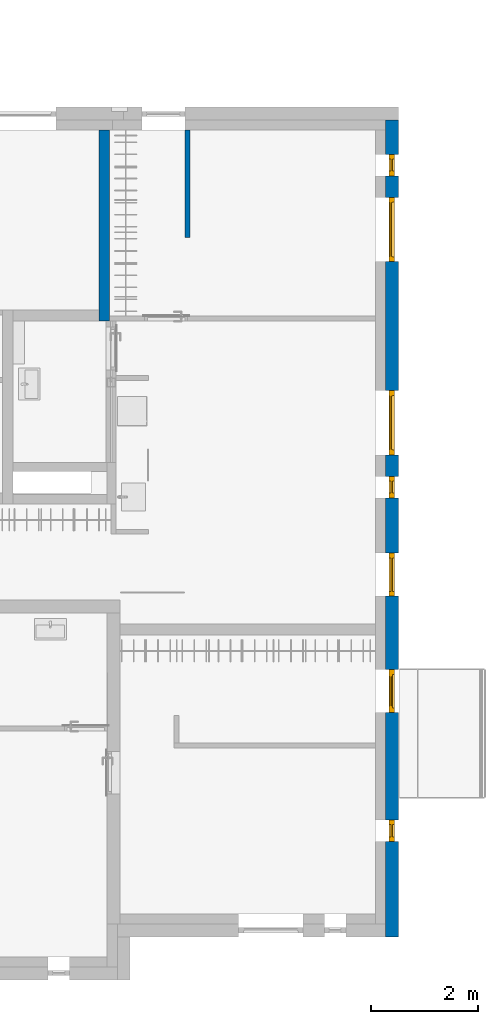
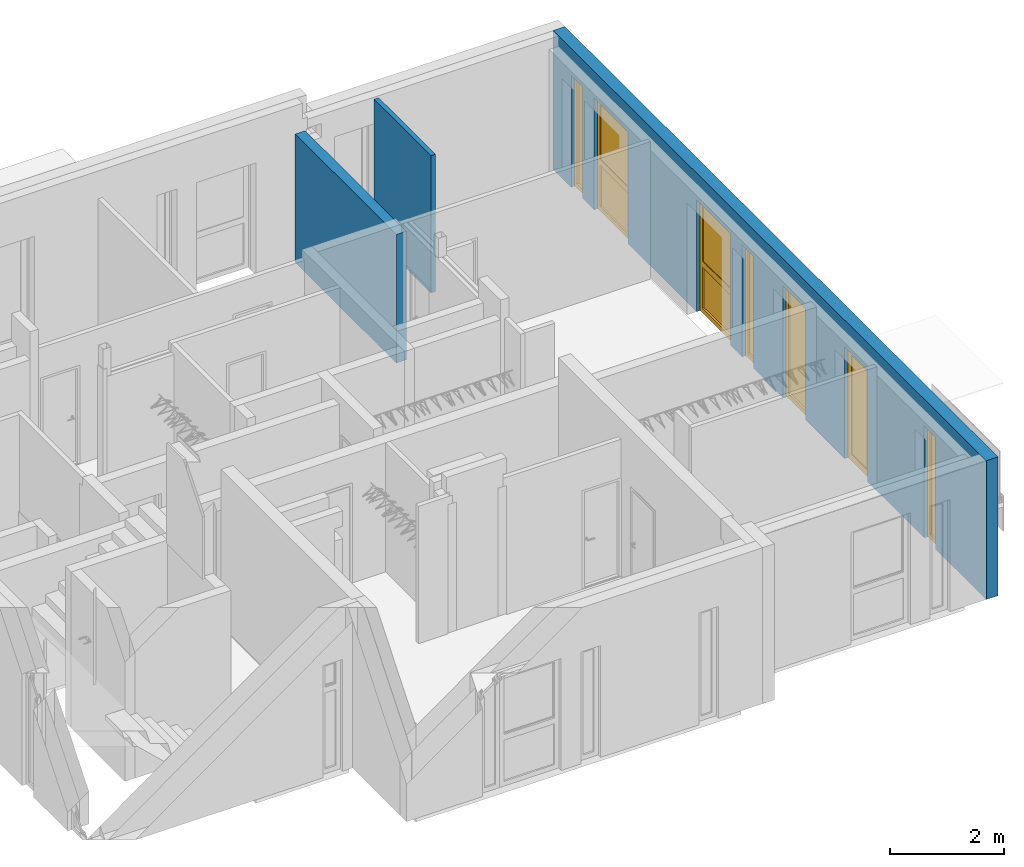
# One storey, part 6 of 42: 7 windows, 3 walls, 7 openings.
"""IFC2X3 building model written with IfcOpenShell, lengths in millimetres."""

from ifc_helpers import new_model, entity, si_unit, converted_unit, direction, frame, frame_2d, origin, place, context, subcontext, project, spatial, polyline, rectangle, extrude, clip, bounded_halfspace, faceted_brep, source, transform, mapped, material, material_list, layer, layer_set, layer_usage, type_object, type_shapes, element, fill, save


model = new_model("IFC2X3")

# Units and contexts
model_context = context("Model", 3, precision=0.01, world=origin(), true_north=direction((6.123233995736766e-17, 1.0)))
plan_context = context("Plan", 3, precision=0.01, world=origin(), true_north=direction((6.123233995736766e-17, 1.0)))
body_context = subcontext(model_context, "Body", "Model", "MODEL_VIEW")
ifc_project = project(units=[si_unit("LENGTHUNIT", "METRE", prefix="MILLI"), converted_unit("PLANEANGLEUNIT", "DEGREE", entity("IfcPlaneAngleMeasure", 0.017453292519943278), si_unit("PLANEANGLEUNIT", "RADIAN"), dimensions=[0, 0, 0, 0, 0, 0, 0]), si_unit("AREAUNIT", "SQUARE_METRE")], contexts=[model_context, plan_context])

# Site, building, storey
site_placement = place(None, origin())
site = spatial("IfcSite", under=ifc_project, at=site_placement, Name="Default", CompositionType="ELEMENT")
building_placement = place(site_placement, origin())
building = spatial("IfcBuilding", under=site, at=building_placement, CompositionType="ELEMENT")
storey_placement = place(building_placement, frame((0.0, 0.0, 9465.000076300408)))
storey = spatial("IfcBuildingStorey", under=building, at=storey_placement, Name="4K", CompositionType="ELEMENT", Elevation=9465.000076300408)

# Wall
ifc_material_1 = material(Name="_K. Väisviimistlus. Krohv. Valge")
ifc_layer_1 = layer(ifc_material_1, 5.0)
ifc_material_2 = material(Name="_K. Müüritis. Väikeplokk. Betoon-õõnesplokk")
ifc_layer_2 = layer(ifc_material_2, 190.00000000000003)
ifc_layer_3 = layer(ifc_material_1, 5.0)
ifc_layer_set_1 = layer_set([ifc_layer_1, ifc_layer_2, ifc_layer_3], Name="Basic Wall:SS-01. 190")
ifc_layer_usage_1 = layer_usage(ifc_layer_set_1, "AXIS2", "NEGATIVE", 100.00000000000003)
wall_type_1 = type_object("IfcWallType", Name="Basic Wall:SS-01. 190", PredefinedType="STANDARD", material=ifc_layer_set_1)
wall_1_placement = place(storey_placement, frame((11850.0, 11846.0, -20.0), z_axis=(0.0, 0.0, 1.0), x_axis=(0.0, 1.0, 0.0)))
element("IfcWallStandardCase", 1, at=wall_1_placement, inside=storey, type_object=wall_type_1, material=ifc_layer_usage_1, Name="Basic Wall:SS-01. 190", ObjectType="Basic Wall:SS-01. 190", context=body_context, shape_type="Clipping", body=[
    clip(extrude(rectangle(XDim=3554.000000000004, YDim=200.00000000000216, at=frame_2d((1777.000000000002, -3.836930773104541e-13), x_axis=(-1.0, 0.0))), origin(), (0.0, 0.0, 1.0), 2759.999877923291), bounded_halfspace(frame((3554.0, -100.0, 0.0)), True, frame((3554.0, -100.0, 0.0)), polyline([(0.0, 0.0), (0.0, 200.0), (-3554.0, 200.0), (-3554.0, 68.0), (-3554.0, 0.0), (-3462.0, 0.0), (0.0, 0.0)]))),
])

# Wall, openings, windows
ifc_layer_4 = layer(ifc_material_1, 10.0)
ifc_material_3 = material(Name="_K. Soojustus. EPS Silver")
ifc_layer_5 = layer(ifc_material_3, 230.0)
ifc_layer_set_2 = layer_set([ifc_layer_4, ifc_layer_5], Name="Basic Wall:VS-01")
ifc_layer_usage_2 = layer_usage(ifc_layer_set_2, "AXIS2", "NEGATIVE", 120.0)
wall_type_2 = type_object("IfcWallType", Name="Basic Wall:VS-01", PredefinedType="STANDARD", material=ifc_layer_set_2)
wall_2_placement = place(storey_placement, frame((17210.0, 15590.0, 0.0), z_axis=(0.0, 0.0, 1.0), x_axis=(0.0, -1.0, 0.0)))
wall_2 = element("IfcWallStandardCase", 2, at=wall_2_placement, inside=storey, type_object=wall_type_2, material=ifc_layer_usage_2, Name="Basic Wall:VS-01", ObjectType="Basic Wall:VS-01", context=body_context, shape_type="SweptSolid", body=[
    extrude(rectangle(XDim=15219.99999999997, YDim=240.00000000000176, at=frame_2d((7609.999999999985, 3.410605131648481e-13), x_axis=(-1.0, 0.0))), origin(), (0.0, 0.0, 1.0), 2975.0000686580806),
])
opening_1_placement = place(wall_2_placement, frame((15590.0, -17210.0, 0.0), z_axis=(0.0, 0.0, 1.0), x_axis=(0.0, 1.0, 0.0)))
opening_1 = element("IfcOpeningElement", 3, at=opening_1_placement, cuts=wall_2, Name="Basic Wall:VS-01", ObjectType="Opening", context=body_context, shape_type="Brep", body=[
    faceted_brep([(17350.0, 14550.0, 2400.0), (16656.0, 14550.0, 2400.0), (16656.0, 14550.0, 0.0), (17240.0, 14550.0, 0.0), (17250.0, 14550.0, 0.0), (17350.0, 14550.0, 0.0), (17350.0, 14950.0, 2400.0), (16656.0, 14950.0, 2400.0), (17350.0, 14950.0, 0.0), (17250.0, 14950.0, 0.0), (17240.0, 14950.0, 0.0), (16656.0, 14950.0, 0.0)], [[[0, 1, 2, 3, 4, 5]], [[6, 7, 1, 0]], [[8, 9, 10, 11, 7, 6]], [[5, 4, 3, 2, 11, 10, 9, 8]], [[6, 0, 5, 8]], [[7, 11, 2, 1]]]),
])
opening_2_placement = place(wall_2_placement, frame((15590.0, -17210.0, 0.0), z_axis=(0.0, 0.0, 1.0), x_axis=(0.0, 1.0, 0.0)))
opening_2 = element("IfcOpeningElement", 4, at=opening_2_placement, cuts=wall_2, Name="Basic Wall:VS-01", ObjectType="Opening", context=body_context, shape_type="Brep", body=[
    faceted_brep([(17350.0, 12950.0, 2400.0), (16656.0, 12950.0, 2400.0), (16656.0, 12950.0, 0.0), (17240.0, 12950.0, 0.0), (17250.0, 12950.0, 0.0), (17350.0, 12950.0, 0.0), (17350.0, 14150.0, 2400.0), (16656.0, 14150.0, 2400.0), (17350.0, 14150.0, 0.0), (17250.0, 14150.0, 0.0), (17240.0, 14150.0, 0.0), (16656.0, 14150.0, 0.0)], [[[0, 1, 2, 3, 4, 5]], [[6, 7, 1, 0]], [[8, 9, 10, 11, 7, 6]], [[5, 4, 3, 2, 11, 10, 9, 8]], [[6, 0, 5, 8]], [[7, 11, 2, 1]]]),
])
opening_3_placement = place(wall_2_placement, frame((15590.0, -17210.0, 0.0), z_axis=(0.0, 0.0, 1.0), x_axis=(0.0, 1.0, 0.0)))
opening_3 = element("IfcOpeningElement", 5, at=opening_3_placement, cuts=wall_2, Name="Basic Wall:VS-01", ObjectType="Opening", context=body_context, shape_type="Brep", body=[
    faceted_brep([(17350.0, 9350.0, 2400.0), (16656.0, 9350.0, 2400.0), (16656.0, 9350.0, 0.0), (17240.0, 9350.0, 0.0), (17250.0, 9350.0, 0.0), (17350.0, 9350.0, 0.0), (17350.0, 10550.0, 2400.0), (16656.0, 10550.0, 2400.0), (17350.0, 10550.0, 0.0), (17250.0, 10550.0, 0.0), (17240.0, 10550.0, 0.0), (16656.0, 10550.0, 0.0)], [[[0, 1, 2, 3, 4, 5]], [[6, 7, 1, 0]], [[8, 9, 10, 11, 7, 6]], [[5, 4, 3, 2, 11, 10, 9, 8]], [[6, 0, 5, 8]], [[7, 11, 2, 1]]]),
])
opening_4_placement = place(wall_2_placement, frame((15590.0, -17210.0, 0.0), z_axis=(0.0, 0.0, 1.0), x_axis=(0.0, 1.0, 0.0)))
opening_4 = element("IfcOpeningElement", 6, at=opening_4_placement, cuts=wall_2, Name="Basic Wall:VS-01", ObjectType="Opening", context=body_context, shape_type="Brep", body=[
    faceted_brep([(17350.0, 8550.0, 2400.0), (16656.0, 8550.0, 2400.0), (16656.0, 8550.0, 0.0), (17240.0, 8550.0, 0.0), (17250.0, 8550.0, 0.0), (17350.0, 8550.0, 0.0), (17350.0, 8950.0, 2400.0), (16656.0, 8950.0, 2400.0), (17350.0, 8950.0, 0.0), (17250.0, 8950.0, 0.0), (17240.0, 8950.0, 0.0), (16656.0, 8950.0, 0.0)], [[[0, 1, 2, 3, 4, 5]], [[6, 7, 1, 0]], [[8, 9, 10, 11, 7, 6]], [[5, 4, 3, 2, 11, 10, 9, 8]], [[6, 0, 5, 8]], [[7, 11, 2, 1]]]),
])
opening_5_placement = place(wall_2_placement, frame((15590.0, -17210.0, 0.0), z_axis=(0.0, 0.0, 1.0), x_axis=(0.0, 1.0, 0.0)))
opening_5 = element("IfcOpeningElement", 7, at=opening_5_placement, cuts=wall_2, Name="Basic Wall:VS-01", ObjectType="Opening", context=body_context, shape_type="Brep", body=[
    faceted_brep([(17350.0, 6720.0, 2400.0), (16656.0, 6720.0, 2400.0), (16656.0, 6720.0, 0.0), (17240.0, 6720.0, 0.0), (17250.0, 6720.0, 0.0), (17350.0, 6720.0, 0.0), (17350.0, 7520.0, 2400.0), (16656.0, 7520.0, 2400.0), (17350.0, 7520.0, 0.0), (17250.0, 7520.0, 0.0), (17240.0, 7520.0, 0.0), (16656.0, 7520.0, 0.0)], [[[0, 1, 2, 3, 4, 5]], [[6, 7, 1, 0]], [[8, 9, 10, 11, 7, 6]], [[5, 4, 3, 2, 11, 10, 9, 8]], [[6, 0, 5, 8]], [[7, 11, 2, 1]]]),
])
opening_6_placement = place(wall_2_placement, frame((15590.0, -17210.0, 0.0), z_axis=(0.0, 0.0, 1.0), x_axis=(0.0, 1.0, 0.0)))
opening_6 = element("IfcOpeningElement", 8, at=opening_6_placement, cuts=wall_2, Name="Basic Wall:VS-01", ObjectType="Opening", context=body_context, shape_type="Brep", body=[
    faceted_brep([(17350.0, 4550.0, 2400.0), (16656.0, 4550.0, 2400.0), (16656.0, 4550.0, 0.0), (17240.0, 4550.0, 0.0), (17250.0, 4550.0, 0.0), (17350.0, 4550.0, 0.0), (17350.0, 5350.0, 2400.0), (16656.0, 5350.0, 2400.0), (17350.0, 5350.0, 0.0), (17250.0, 5350.0, 0.0), (17240.0, 5350.0, 0.0), (16656.0, 5350.0, 0.0)], [[[0, 1, 2, 3, 4, 5]], [[6, 7, 1, 0]], [[8, 9, 10, 11, 7, 6]], [[5, 4, 3, 2, 11, 10, 9, 8]], [[6, 0, 5, 8]], [[7, 11, 2, 1]]]),
])
opening_7_placement = place(wall_2_placement, frame((15590.0, -17210.0, 0.0), z_axis=(0.0, 0.0, 1.0), x_axis=(0.0, 1.0, 0.0)))
opening_7 = element("IfcOpeningElement", 9, at=opening_7_placement, cuts=wall_2, Name="Basic Wall:VS-01", ObjectType="Opening", context=body_context, shape_type="Brep", body=[
    faceted_brep([(17350.0, 2150.0, 2400.0), (16656.0, 2150.0, 2400.0), (16656.0, 2150.0, 0.0), (17240.0, 2150.0, 0.0), (17250.0, 2150.0, 0.0), (17350.0, 2150.0, 0.0), (17350.0, 2550.0, 2400.0), (16656.0, 2550.0, 2400.0), (17350.0, 2550.0, 0.0), (17250.0, 2550.0, 0.0), (17240.0, 2550.0, 0.0), (16656.0, 2550.0, 0.0)], [[[0, 1, 2, 3, 4, 5]], [[6, 7, 1, 0]], [[8, 9, 10, 11, 7, 6]], [[5, 4, 3, 2, 11, 10, 9, 8]], [[6, 0, 5, 8]], [[7, 11, 2, 1]]]),
])
ifc_material_4 = material(Name="_K. Klaas. Pakett")
ifc_material_5 = material(Name="_K. Avatäited. Raam. PVC. RAL9005")
ifc_material_6 = material(Name="_K. Avatäited. Raam. PVC. Valge")
ifc_material_list_1 = material_list([ifc_material_4, ifc_material_5, ifc_material_6])
window_style_1 = type_object("IfcWindowStyle", Name="HR_Window_Generic_Rectangle_1x2:A-13.1200x2400.P", ConstructionType="NOTDEFINED", OperationType="NOTDEFINED", ParameterTakesPrecedence=False, Sizeable=False, material=ifc_material_list_1)
shared_shape_1 = source(origin(), body_context, "Body", "Brep", [
    faceted_brep([(78.0, -154.0, 2322.0), (1122.0, -154.0, 2322.0), (1122.0, -154.0, 1101.0), (78.0, -154.0, 1101.0), (1122.0, -179.0, 2322.0), (1122.0, -179.0, 1101.0), (78.0, -179.0, 1101.0), (78.0, -179.0, 2322.0)], [[[0, 1, 2, 3]], [[2, 1, 4, 5]], [[3, 2, 5, 6]], [[0, 3, 6, 7]], [[7, 6, 5, 4]], [[1, 0, 7, 4]]]),
    faceted_brep([(1122.0, -154.0, 2322.0), (1122.0, -154.0, 1101.0), (1122.0, -179.0, 1101.0), (1122.0, -179.0, 2322.0), (1142.0, -134.0, 2342.0), (58.0, -134.0, 2342.0), (58.0, -194.0, 2342.0), (1142.0, -194.0, 2342.0), (98.0, -154.0, 2302.0), (98.0, -134.0, 2302.0), (1102.0, -134.0, 2302.0), (1102.0, -154.0, 2302.0), (98.0, -179.0, 2302.0), (98.0, -194.0, 2302.0), (98.0, -194.0, 1121.0), (98.0, -179.0, 1121.0), (1142.0, -134.0, 1081.0), (1142.0, -194.0, 1081.0), (58.0, -194.0, 1081.0), (58.0, -134.0, 1081.0), (1102.0, -194.0, 2302.0), (1102.0, -194.0, 1121.0), (98.0, -134.0, 1121.0), (1102.0, -134.0, 1121.0), (98.0, -154.0, 1121.0), (1102.0, -154.0, 1121.0), (78.0, -154.0, 1101.0), (78.0, -179.0, 1101.0), (78.0, -154.0, 2322.0), (78.0, -179.0, 2322.0), (1102.0, -179.0, 2302.0), (1102.0, -179.0, 1121.0)], [[[0, 1, 2, 3]], [[4, 5, 6, 7]], [[8, 9, 10, 11]], [[12, 13, 14, 15]], [[16, 17, 18, 19]], [[4, 7, 17, 16]], [[13, 20, 21, 14], [7, 6, 18, 17]], [[6, 5, 19, 18]], [[5, 4, 16, 19], [10, 9, 22, 23]], [[9, 8, 24, 22]], [[25, 23, 22, 24]], [[11, 10, 23, 25]], [[1, 26, 27, 2]], [[26, 28, 29, 27]], [[28, 26, 1, 0], [8, 11, 25, 24]], [[28, 0, 3, 29]], [[20, 30, 31, 21]], [[21, 31, 15, 14]], [[29, 3, 2, 27], [30, 12, 15, 31]], [[13, 12, 30, 20]]], outer=[[True], [True], [True], [True], [True], [True], [False, True], [True], [True, False], [True], [True], [True], [True], [True], [True, False], [True], [True], [True], [True, False], [True]]),
    faceted_brep([(88.0, -194.0, 989.0), (1112.0, -194.0, 989.0), (1112.0, -194.0, 108.0), (88.0, -194.0, 108.0), (1142.0, -194.0, 1019.0), (58.0, -194.0, 1019.0), (58.0, -194.0, 78.0), (1142.0, -194.0, 78.0), (88.0, -159.0, 989.0), (88.0, -159.0, 108.0), (1112.0, -159.0, 108.0), (1142.0, -159.0, 1019.0), (1142.0, -159.0, 78.0), (58.0, -159.0, 78.0), (58.0, -159.0, 1019.0), (1112.0, -159.0, 989.0)], [[[0, 1, 2, 3], [4, 5, 6, 7]], [[8, 0, 3, 9]], [[9, 3, 2, 10]], [[11, 12, 13, 14], [15, 8, 9, 10]], [[1, 15, 10, 2]], [[6, 5, 14, 13]], [[7, 6, 13, 12]], [[4, 7, 12, 11]], [[15, 1, 0, 8]], [[5, 4, 11, 14]]], outer=[[False, True], [True], [True], [True, False], [True], [True], [True], [True], [True], [True]]),
    faceted_brep([(1142.0, -159.0, 1019.0), (58.0, -159.0, 1019.0), (58.0, -159.0, 78.0), (1142.0, -159.0, 78.0), (58.0, -134.0, 1019.0), (58.0, -134.0, 78.0), (1142.0, -134.0, 78.0), (1142.0, -134.0, 1019.0)], [[[0, 1, 2, 3]], [[2, 1, 4, 5]], [[3, 2, 5, 6]], [[0, 3, 6, 7]], [[7, 6, 5, 4]], [[1, 0, 7, 4]]]),
    faceted_brep([(58.0, -134.0, 2342.0), (58.0, -134.0, 1081.0), (1142.0, -134.0, 1081.0), (1142.0, -134.0, 2342.0), (88.0, -134.0, 2312.0), (1112.0, -134.0, 2312.0), (1112.0, -134.0, 1111.0), (88.0, -134.0, 1111.0), (1142.0, -134.0, 1019.0), (1142.0, -134.0, 78.0), (1142.0, -194.0, 78.0), (1142.0, -194.0, 1019.0), (58.0, -134.0, 78.0), (58.0, -134.0, 1019.0), (58.0, -194.0, 1019.0), (58.0, -194.0, 78.0), (1112.0, -100.0, 108.0), (88.0, -100.0, 108.0), (88.0, -134.0, 108.0), (1112.0, -134.0, 108.0), (88.0, -100.0, 989.0), (88.0, -134.0, 989.0), (1112.0, -100.0, 989.0), (1112.0, -134.0, 989.0), (1200.0, -194.0, 2400.0), (0.0, -194.0, 2400.0), (0.0, -194.0, 30.0), (1200.0, -194.0, 30.0), (58.0, -194.0, 2342.0), (1142.0, -194.0, 2342.0), (1142.0, -194.0, 1081.0), (58.0, -194.0, 1081.0), (0.0, -100.0, 2400.0), (0.0, -100.0, 30.0), (0.0, -110.0, 30.0), (0.0, -110.0, 0.0), (0.0, -184.0, 0.0), (0.0, -184.0, 30.0), (1200.0, -184.0, 30.0), (1200.0, -100.0, 2400.0), (1200.0, -184.0, 0.0), (1200.0, -110.0, 0.0), (1200.0, -110.0, 30.0), (1200.0, -100.0, 30.0), (88.0, -100.0, 2312.0), (88.0, -100.0, 1111.0), (1112.0, -100.0, 1111.0), (1112.0, -100.0, 2312.0)], [[[0, 1, 2, 3], [4, 5, 6, 7]], [[8, 9, 10, 11]], [[12, 13, 14, 15]], [[9, 12, 15, 10]], [[16, 17, 18, 19]], [[17, 20, 21, 18]], [[22, 16, 19, 23]], [[11, 10, 15, 14], [24, 25, 26, 27], [28, 29, 30, 31]], [[25, 32, 33, 34, 35, 36, 37, 26]], [[37, 38, 27, 26]], [[39, 24, 27, 38, 40, 41, 42, 43]], [[17, 16, 22, 20], [32, 39, 43, 33], [44, 45, 46, 47]], [[42, 34, 33, 43]], [[34, 42, 41, 35]], [[35, 41, 40, 36]], [[38, 37, 36, 40]], [[25, 24, 39, 32]], [[44, 47, 5, 4]], [[47, 46, 6, 5]], [[45, 44, 4, 7]], [[0, 3, 29, 28]], [[3, 2, 30, 29]], [[13, 8, 11, 14]], [[1, 0, 28, 31]], [[2, 1, 31, 30]], [[46, 45, 7, 6]], [[20, 22, 23, 21]], [[9, 8, 13, 12], [19, 18, 21, 23]]], outer=[[True, False], [True], [True], [True], [True], [True], [True], [False, True, False], [True], [True], [True], [False, True, False], [True], [True], [True], [True], [True], [True], [True], [True], [True], [True], [True], [True], [True], [True], [True], [True, False]]),
])
type_shapes(window_style_1, [shared_shape_1])
window_1_placement = place(opening_2_placement, frame((17350.0, 14150.0, 0.0), z_axis=(0.0, 0.0, 1.0), x_axis=(0.0, -1.0, 0.0)))
window_1 = element("IfcWindow", 10, at=window_1_placement, inside=storey, type_object=window_style_1, material=ifc_material_list_1, Name="HR_Window_Generic_Rectangle_1x2:A-13.1200x2400.P", ObjectType="HR_Window_Generic_Rectangle_1x2:A-13.1200x2400.P", OverallHeight=2465.0000000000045, OverallWidth=1200.0000000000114, context=body_context, shape_type="MappedRepresentation", body=[
    mapped(shared_shape_1, transform((0.0, 0.0, 0.0), scale=1.0)),
])
fill(opening_2, window_1)
window_2_placement = place(opening_3_placement, frame((17350.0, 10550.0, 0.0), z_axis=(0.0, 0.0, 1.0), x_axis=(0.0, -1.0, 0.0)))
window_2 = element("IfcWindow", 11, at=window_2_placement, inside=storey, type_object=window_style_1, material=ifc_material_list_1, Name="HR_Window_Generic_Rectangle_1x2:A-13.1200x2400.P", ObjectType="HR_Window_Generic_Rectangle_1x2:A-13.1200x2400.P", OverallHeight=2465.0000000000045, OverallWidth=1200.0000000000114, context=body_context, shape_type="MappedRepresentation", body=[
    mapped(shared_shape_1, transform((0.0, 0.0, 0.0), scale=1.0)),
])
fill(opening_3, window_2)
ifc_material_list_2 = material_list([ifc_material_6, ifc_material_4, ifc_material_5])
window_style_2 = type_object("IfcWindowStyle", Name="HR_Window_Generic_Rectangle_1x1:A-01.400x2400.ma", ConstructionType="NOTDEFINED", OperationType="NOTDEFINED", ParameterTakesPrecedence=False, Sizeable=False, material=ifc_material_list_2)
shared_shape_2 = source(origin(), body_context, "Body", "Brep", [
    faceted_brep([(88.0, -194.0, 2312.0), (312.0, -194.0, 2312.0), (312.0, -194.0, 108.0), (88.0, -194.0, 108.0), (342.0, -194.0, 2342.0), (58.0, -194.0, 2342.0), (58.0, -194.0, 78.0), (342.0, -194.0, 78.0), (88.0, -159.0, 2312.0), (88.0, -159.0, 108.0), (312.0, -159.0, 108.0), (342.0, -159.0, 2342.0), (342.0, -159.0, 78.0), (58.0, -159.0, 78.0), (58.0, -159.0, 2342.0), (312.0, -159.0, 2312.0)], [[[0, 1, 2, 3], [4, 5, 6, 7]], [[8, 0, 3, 9]], [[9, 3, 2, 10]], [[11, 12, 13, 14], [15, 8, 9, 10]], [[1, 15, 10, 2]], [[6, 5, 14, 13]], [[7, 6, 13, 12]], [[4, 7, 12, 11]], [[15, 1, 0, 8]], [[5, 4, 11, 14]]], outer=[[False, True], [True], [True], [True, False], [True], [True], [True], [True], [True], [True]]),
    faceted_brep([(342.0, -159.0, 2342.0), (58.0, -159.0, 2342.0), (58.0, -159.0, 78.0), (342.0, -159.0, 78.0), (58.0, -134.0, 2342.0), (58.0, -134.0, 78.0), (342.0, -134.0, 78.0), (342.0, -134.0, 2342.0)], [[[0, 1, 2, 3]], [[2, 1, 4, 5]], [[3, 2, 5, 6]], [[0, 3, 6, 7]], [[7, 6, 5, 4]], [[1, 0, 7, 4]]]),
    faceted_brep([(342.0, -134.0, 78.0), (58.0, -134.0, 78.0), (58.0, -194.0, 78.0), (342.0, -194.0, 78.0), (58.0, -134.0, 2342.0), (58.0, -194.0, 2342.0), (342.0, -134.0, 2342.0), (342.0, -194.0, 2342.0), (88.0, -100.0, 108.0), (88.0, -100.0, 2312.0), (88.0, -134.0, 2312.0), (88.0, -134.0, 108.0), (312.0, -100.0, 108.0), (312.0, -134.0, 108.0), (312.0, -100.0, 2312.0), (312.0, -134.0, 2312.0), (0.0, -100.0, 2400.0), (400.0, -100.0, 2400.0), (400.0, -100.0, 30.0), (0.0, -100.0, 30.0), (400.0, -194.0, 2400.0), (0.0, -194.0, 2400.0), (0.0, -194.0, 30.0), (400.0, -194.0, 30.0), (0.0, -110.0, 30.0), (0.0, -110.0, 0.0), (0.0, -184.0, 0.0), (0.0, -184.0, 30.0), (400.0, -184.0, 30.0), (400.0, -184.0, 0.0), (400.0, -110.0, 0.0), (400.0, -110.0, 30.0)], [[[0, 1, 2, 3]], [[1, 4, 5, 2]], [[6, 0, 3, 7]], [[8, 9, 10, 11]], [[12, 8, 11, 13]], [[14, 12, 13, 15]], [[16, 17, 18, 19], [9, 8, 12, 14]], [[20, 21, 22, 23], [7, 3, 2, 5]], [[21, 16, 19, 24, 25, 26, 27, 22]], [[27, 28, 23, 22]], [[17, 20, 23, 28, 29, 30, 31, 18]], [[31, 24, 19, 18]], [[24, 31, 30, 25]], [[25, 30, 29, 26]], [[28, 27, 26, 29]], [[4, 6, 7, 5]], [[9, 14, 15, 10]], [[21, 20, 17, 16]], [[10, 15, 13, 11], [0, 6, 4, 1]]], outer=[[True], [True], [True], [True], [True], [True], [True, False], [True, False], [True], [True], [True], [True], [True], [True], [True], [True], [True], [True], [False, True]]),
])
type_shapes(window_style_2, [shared_shape_2])
window_3_placement = place(opening_1_placement, frame((17350.0, 14950.0, 0.0), z_axis=(0.0, 0.0, 1.0), x_axis=(0.0, -1.0, 0.0)))
window_3 = element("IfcWindow", 12, at=window_3_placement, inside=storey, type_object=window_style_2, material=ifc_material_list_2, Name="HR_Window_Generic_Rectangle_1x1:A-01.400x2400.ma", ObjectType="HR_Window_Generic_Rectangle_1x1:A-01.400x2400.ma", OverallHeight=2465.0000000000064, OverallWidth=400.0000000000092, context=body_context, shape_type="MappedRepresentation", body=[
    mapped(shared_shape_2, transform((0.0, 0.0, 0.0), scale=1.0)),
])
fill(opening_1, window_3)
window_4_placement = place(opening_4_placement, frame((17350.0, 8950.0, 0.0), z_axis=(0.0, 0.0, 1.0), x_axis=(0.0, -1.0, 0.0)))
window_4 = element("IfcWindow", 13, at=window_4_placement, inside=storey, type_object=window_style_2, material=ifc_material_list_2, Name="HR_Window_Generic_Rectangle_1x1:A-01.400x2400.ma", ObjectType="HR_Window_Generic_Rectangle_1x1:A-01.400x2400.ma", OverallHeight=2465.0000000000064, OverallWidth=400.0000000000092, context=body_context, shape_type="MappedRepresentation", body=[
    mapped(shared_shape_2, transform((0.0, 0.0, 0.0), scale=1.0)),
])
fill(opening_4, window_4)
window_5_placement = place(opening_7_placement, frame((17350.0, 2550.0, 0.0), z_axis=(0.0, 0.0, 1.0), x_axis=(0.0, -1.0, 0.0)))
window_5 = element("IfcWindow", 14, at=window_5_placement, inside=storey, type_object=window_style_2, material=ifc_material_list_2, Name="HR_Window_Generic_Rectangle_1x1:A-01.400x2400.ma", ObjectType="HR_Window_Generic_Rectangle_1x1:A-01.400x2400.ma", OverallHeight=2465.0000000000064, OverallWidth=400.0000000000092, context=body_context, shape_type="MappedRepresentation", body=[
    mapped(shared_shape_2, transform((0.0, 0.0, 0.0), scale=1.0)),
])
fill(opening_7, window_5)
window_style_3 = type_object("IfcWindowStyle", Name="HR_Window_Generic_Rectangle_1x1:A-02. 800x2400. ma", ConstructionType="NOTDEFINED", OperationType="NOTDEFINED", ParameterTakesPrecedence=False, Sizeable=False, material=ifc_material_list_2)
shared_shape_3 = source(origin(), body_context, "Body", "Brep", [
    faceted_brep([(88.0, -194.0, 2312.0), (712.0, -194.0, 2312.0), (712.0, -194.0, 108.0), (88.0, -194.0, 108.0), (742.0, -194.0, 2342.0), (58.0, -194.0, 2342.0), (58.0, -194.0, 78.0), (742.0, -194.0, 78.0), (88.0, -159.0, 2312.0), (88.0, -159.0, 108.0), (712.0, -159.0, 108.0), (742.0, -159.0, 2342.0), (742.0, -159.0, 78.0), (58.0, -159.0, 78.0), (58.0, -159.0, 2342.0), (712.0, -159.0, 2312.0)], [[[0, 1, 2, 3], [4, 5, 6, 7]], [[8, 0, 3, 9]], [[9, 3, 2, 10]], [[11, 12, 13, 14], [15, 8, 9, 10]], [[1, 15, 10, 2]], [[6, 5, 14, 13]], [[7, 6, 13, 12]], [[4, 7, 12, 11]], [[15, 1, 0, 8]], [[5, 4, 11, 14]]], outer=[[False, True], [True], [True], [True, False], [True], [True], [True], [True], [True], [True]]),
    faceted_brep([(742.0, -159.0, 2342.0), (58.0, -159.0, 2342.0), (58.0, -159.0, 78.0), (742.0, -159.0, 78.0), (58.0, -134.0, 2342.0), (58.0, -134.0, 78.0), (742.0, -134.0, 78.0), (742.0, -134.0, 2342.0)], [[[0, 1, 2, 3]], [[2, 1, 4, 5]], [[3, 2, 5, 6]], [[0, 3, 6, 7]], [[7, 6, 5, 4]], [[1, 0, 7, 4]]]),
    faceted_brep([(742.0, -134.0, 78.0), (58.0, -134.0, 78.0), (58.0, -194.0, 78.0), (742.0, -194.0, 78.0), (58.0, -134.0, 2342.0), (58.0, -194.0, 2342.0), (742.0, -134.0, 2342.0), (742.0, -194.0, 2342.0), (88.0, -100.0, 108.0), (88.0, -100.0, 2312.0), (88.0, -134.0, 2312.0), (88.0, -134.0, 108.0), (712.0, -100.0, 108.0), (712.0, -134.0, 108.0), (712.0, -100.0, 2312.0), (712.0, -134.0, 2312.0), (0.0, -100.0, 2400.0), (800.0, -100.0, 2400.0), (800.0, -100.0, 30.0), (0.0, -100.0, 30.0), (800.0, -194.0, 2400.0), (0.0, -194.0, 2400.0), (0.0, -194.0, 30.0), (800.0, -194.0, 30.0), (0.0, -110.0, 30.0), (0.0, -110.0, 0.0), (0.0, -184.0, 0.0), (0.0, -184.0, 30.0), (800.0, -184.0, 30.0), (800.0, -184.0, 0.0), (800.0, -110.0, 0.0), (800.0, -110.0, 30.0)], [[[0, 1, 2, 3]], [[1, 4, 5, 2]], [[6, 0, 3, 7]], [[8, 9, 10, 11]], [[12, 8, 11, 13]], [[14, 12, 13, 15]], [[16, 17, 18, 19], [9, 8, 12, 14]], [[20, 21, 22, 23], [7, 3, 2, 5]], [[21, 16, 19, 24, 25, 26, 27, 22]], [[27, 28, 23, 22]], [[17, 20, 23, 28, 29, 30, 31, 18]], [[31, 24, 19, 18]], [[24, 31, 30, 25]], [[25, 30, 29, 26]], [[28, 27, 26, 29]], [[4, 6, 7, 5]], [[9, 14, 15, 10]], [[21, 20, 17, 16]], [[10, 15, 13, 11], [0, 6, 4, 1]]], outer=[[True], [True], [True], [True], [True], [True], [True, False], [True, False], [True], [True], [True], [True], [True], [True], [True], [True], [True], [True], [False, True]]),
])
type_shapes(window_style_3, [shared_shape_3])
window_6_placement = place(opening_5_placement, frame((17350.0, 7520.0, 0.0), z_axis=(0.0, 0.0, 1.0), x_axis=(0.0, -1.0, 0.0)))
window_6 = element("IfcWindow", 15, at=window_6_placement, inside=storey, type_object=window_style_3, material=ifc_material_list_2, Name="HR_Window_Generic_Rectangle_1x1:A-02. 800x2400. ma", ObjectType="HR_Window_Generic_Rectangle_1x1:A-02. 800x2400. ma", OverallHeight=2465.0000000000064, OverallWidth=800.000000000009, context=body_context, shape_type="MappedRepresentation", body=[
    mapped(shared_shape_3, transform((0.0, 0.0, 0.0), scale=1.0)),
])
fill(opening_5, window_6)
ifc_material_list_3 = material_list([ifc_material_4, ifc_material_5])
window_style_4 = type_object("IfcWindowStyle", Name="HR_Window_Generic_Rectangle_1x1:A-10.800x2400.P", ConstructionType="NOTDEFINED", OperationType="NOTDEFINED", ParameterTakesPrecedence=False, Sizeable=False, material=ifc_material_list_3)
shared_shape_4 = source(origin(), body_context, "Body", "Brep", [
    faceted_brep([(108.0, -154.0, 2292.0), (692.0, -154.0, 2292.0), (692.0, -154.0, 128.0), (108.0, -154.0, 128.0), (692.0, -179.0, 2292.0), (692.0, -179.0, 128.0), (108.0, -179.0, 128.0), (108.0, -179.0, 2292.0)], [[[0, 1, 2, 3]], [[2, 1, 4, 5]], [[3, 2, 5, 6]], [[0, 3, 6, 7]], [[7, 6, 5, 4]], [[1, 0, 7, 4]]]),
    faceted_brep([(692.0, -154.0, 2292.0), (692.0, -154.0, 128.0), (692.0, -179.0, 128.0), (692.0, -179.0, 2292.0), (742.0, -134.0, 2342.0), (58.0, -134.0, 2342.0), (58.0, -194.0, 2342.0), (742.0, -194.0, 2342.0), (128.0, -154.0, 2272.0), (128.0, -134.0, 2272.0), (672.0, -134.0, 2272.0), (672.0, -154.0, 2272.0), (128.0, -179.0, 2272.0), (128.0, -194.0, 2272.0), (128.0, -194.0, 148.0), (128.0, -179.0, 148.0), (742.0, -134.0, 78.0), (742.0, -194.0, 78.0), (58.0, -194.0, 78.0), (58.0, -134.0, 78.0), (672.0, -194.0, 2272.0), (672.0, -194.0, 148.0), (128.0, -134.0, 148.0), (672.0, -134.0, 148.0), (128.0, -154.0, 148.0), (672.0, -154.0, 148.0), (108.0, -154.0, 128.0), (108.0, -179.0, 128.0), (108.0, -154.0, 2292.0), (108.0, -179.0, 2292.0), (672.0, -179.0, 2272.0), (672.0, -179.0, 148.0)], [[[0, 1, 2, 3]], [[4, 5, 6, 7]], [[8, 9, 10, 11]], [[12, 13, 14, 15]], [[16, 17, 18, 19]], [[4, 7, 17, 16]], [[13, 20, 21, 14], [7, 6, 18, 17]], [[6, 5, 19, 18]], [[5, 4, 16, 19], [10, 9, 22, 23]], [[9, 8, 24, 22]], [[25, 23, 22, 24]], [[11, 10, 23, 25]], [[1, 26, 27, 2]], [[26, 28, 29, 27]], [[28, 26, 1, 0], [8, 11, 25, 24]], [[28, 0, 3, 29]], [[20, 30, 31, 21]], [[21, 31, 15, 14]], [[29, 3, 2, 27], [30, 12, 15, 31]], [[13, 12, 30, 20]]], outer=[[True], [True], [True], [True], [True], [True], [False, True], [True], [True, False], [True], [True], [True], [True], [True], [True, False], [True], [True], [True], [True, False], [True]]),
    faceted_brep([(742.0, -134.0, 78.0), (58.0, -134.0, 78.0), (58.0, -194.0, 78.0), (742.0, -194.0, 78.0), (58.0, -134.0, 2342.0), (58.0, -194.0, 2342.0), (742.0, -134.0, 2342.0), (742.0, -194.0, 2342.0), (88.0, -100.0, 108.0), (88.0, -100.0, 2312.0), (88.0, -134.0, 2312.0), (88.0, -134.0, 108.0), (712.0, -100.0, 108.0), (712.0, -134.0, 108.0), (712.0, -100.0, 2312.0), (712.0, -134.0, 2312.0), (0.0, -100.0, 2400.0), (800.0, -100.0, 2400.0), (800.0, -100.0, 30.0), (0.0, -100.0, 30.0), (800.0, -194.0, 2400.0), (0.0, -194.0, 2400.0), (0.0, -194.0, 30.0), (800.0, -194.0, 30.0), (0.0, -110.0, 30.0), (0.0, -110.0, 0.0), (0.0, -184.0, 0.0), (0.0, -184.0, 30.0), (800.0, -184.0, 30.0), (800.0, -184.0, 0.0), (800.0, -110.0, 0.0), (800.0, -110.0, 30.0)], [[[0, 1, 2, 3]], [[1, 4, 5, 2]], [[6, 0, 3, 7]], [[8, 9, 10, 11]], [[12, 8, 11, 13]], [[14, 12, 13, 15]], [[16, 17, 18, 19], [9, 8, 12, 14]], [[20, 21, 22, 23], [7, 3, 2, 5]], [[21, 16, 19, 24, 25, 26, 27, 22]], [[27, 28, 23, 22]], [[17, 20, 23, 28, 29, 30, 31, 18]], [[31, 24, 19, 18]], [[24, 31, 30, 25]], [[25, 30, 29, 26]], [[28, 27, 26, 29]], [[4, 6, 7, 5]], [[9, 14, 15, 10]], [[21, 20, 17, 16]], [[10, 15, 13, 11], [0, 6, 4, 1]]], outer=[[True], [True], [True], [True], [True], [True], [True, False], [True, False], [True], [True], [True], [True], [True], [True], [True], [True], [True], [True], [False, True]]),
])
type_shapes(window_style_4, [shared_shape_4])
window_7_placement = place(opening_6_placement, frame((17350.0, 5350.0, 0.0), z_axis=(0.0, 0.0, 1.0), x_axis=(0.0, -1.0, 0.0)))
window_7 = element("IfcWindow", 16, at=window_7_placement, inside=storey, type_object=window_style_4, material=ifc_material_list_3, Name="HR_Window_Generic_Rectangle_1x1:A-10.800x2400.P", ObjectType="HR_Window_Generic_Rectangle_1x1:A-10.800x2400.P", OverallHeight=2465.0000000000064, OverallWidth=800.000000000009, context=body_context, shape_type="MappedRepresentation", body=[
    mapped(shared_shape_4, transform((0.0, 0.0, 0.0), scale=1.0)),
])
fill(opening_6, window_7)

# Wall
ifc_material_7 = material(Name="_K. Ehitusplaat. Kipsplaat. Erikõva")
ifc_layer_6 = layer(ifc_material_7, 13.000000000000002)
ifc_material_8 = material(Name="_K. Soojustus. Mineraalvill")
ifc_layer_7 = layer(ifc_material_8, 66.0)
ifc_layer_8 = layer(ifc_material_7, 13.000000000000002)
ifc_layer_set_3 = layer_set([ifc_layer_6, ifc_layer_7, ifc_layer_8], Name="Basic Wall:SS-401")
ifc_layer_usage_3 = layer_usage(ifc_layer_set_3, "AXIS2", "NEGATIVE", 46.00000000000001)
wall_type_3 = type_object("IfcWallType", Name="Basic Wall:SS-401", PredefinedType="STANDARD", material=ifc_layer_set_3)
wall_3_placement = place(storey_placement, frame((13396.0, 13400.0, -20.0), z_axis=(0.0, 0.0, 1.0), x_axis=(0.0, 1.0, 0.0)))
element("IfcWallStandardCase", 17, at=wall_3_placement, inside=storey, type_object=wall_type_3, material=ifc_layer_usage_3, Name="Basic Wall:SS-401", ObjectType="Basic Wall:SS-401", context=body_context, shape_type="SweptSolid", body=[
    extrude(rectangle(XDim=2000.0000000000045, YDim=92.00000000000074, at=frame_2d((1000.0000000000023, 5.897504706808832e-13), x_axis=(-1.0, 0.0))), origin(), (0.0, 0.0, 1.0), 2945.9999999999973),
])

save(model, "model.ifc")
